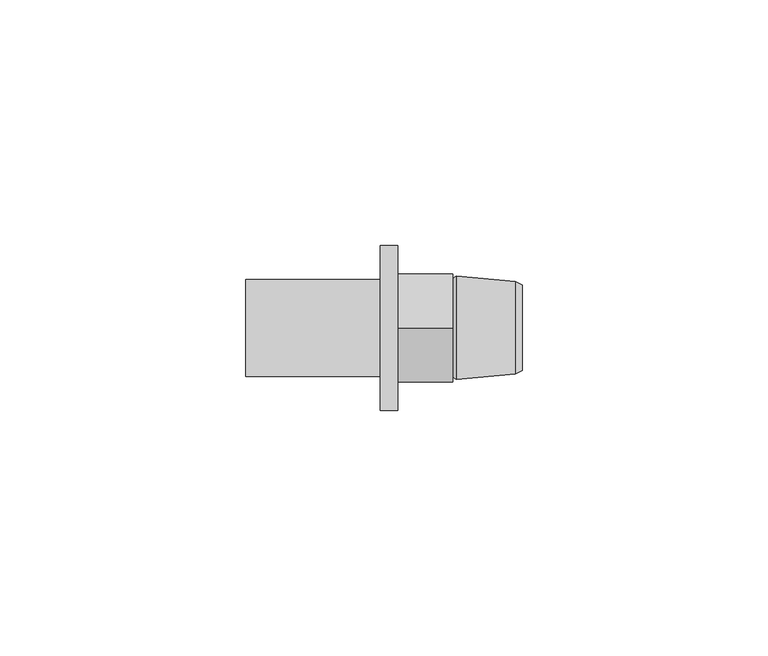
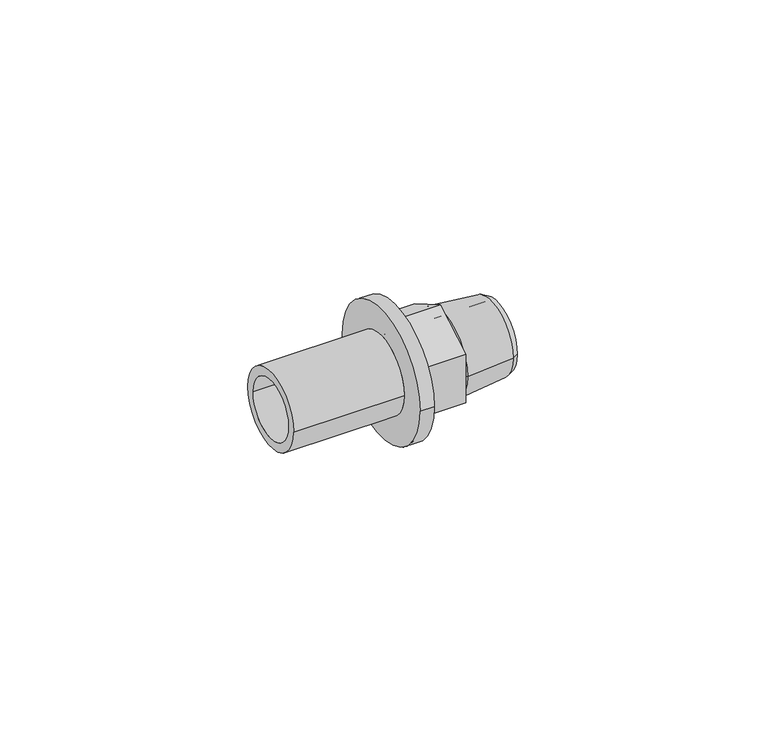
"""IFC4 building model written with IfcOpenShell, lengths in millimetres: pipe fitting geometry, RAUTITAN_Adapter_external_thread LX+G_LX : RTI A external LX+G_LX DE."""

from ifc_helpers import new_model, si_unit, frame, origin, place, context, project, spatial, polyline, circle_curve, outline, extrude, source, transform, mapped, element, save
from ifc_brep_helpers import plane_surface, cylinder_surface, revolved_surface, advanced_brep


def pipe_fitting_fd7cd378(model_context):
    return source(origin(), model_context, "Body", "SolidModel", [
        advanced_brep(
        [(-3.54, 9.875, 0.0), (-3.54, -9.875, 0.0), (-31.02, -9.875, 0.0), (-31.02, 9.875, 0.0), (0.0, 16.8, 0.0), (0.0, -16.8, 0.0), (-3.54, -16.8, 0.0), (-3.54, 16.8, 0.0), (-31.02, 7.6, 0.0), (-31.02, -7.6, 0.0), (0.0, -7.6, 0.0), (0.0, 7.6, 0.0)],
        [
            (0, 1, circle_curve(frame((-3.54, 0.0, 0.0), z_axis=(-1.0, 0.0, 0.0), x_axis=(0.0, -1.0, 0.0)), 9.875)),
            (1, 2),
            (2, 3, circle_curve(frame((-31.02, 0.0, 0.0), z_axis=(1.0, 0.0, 0.0), x_axis=(0.0, -1.0, 0.0)), 9.875)),
            (3, 0),
            (4, 5, circle_curve(frame((0.0, 0.0, 0.0), z_axis=(-1.0, 0.0, 0.0), x_axis=(0.0, -1.0, 0.0)), 16.8)),
            (5, 6),
            (6, 7, circle_curve(frame((-3.54, 0.0, 0.0), z_axis=(1.0, 0.0, 0.0), x_axis=(0.0, -1.0, 0.0)), 16.8)),
            (7, 4),
            (8, 9, circle_curve(frame((-31.02, 0.0, 0.0), z_axis=(-1.0, 0.0, 0.0), x_axis=(0.0, -1.0, 0.0)), 7.6)),
            (9, 10),
            (10, 11, circle_curve(frame((0.0, 0.0, 0.0), z_axis=(1.0, 0.0, 0.0), x_axis=(0.0, -1.0, 0.0)), 7.6)),
            (11, 8),
            (2, 3, circle_curve(frame((-31.02, 0.0, 0.0), z_axis=(-1.0, 0.0, 0.0), x_axis=(0.0, 1.0, 0.0)), 9.875)),
            (8, 9, circle_curve(frame((-31.02, 0.0, 0.0), z_axis=(1.0, 0.0, 0.0), x_axis=(0.0, 1.0, 0.0)), 7.6)),
            (1, 0, circle_curve(frame((-3.54, 0.0, 0.0), z_axis=(-1.0, 0.0, 0.0), x_axis=(0.0, 1.0, 0.0)), 9.875)),
            (6, 7, circle_curve(frame((-3.54, 0.0, 0.0), z_axis=(-1.0, 0.0, 0.0), x_axis=(0.0, 1.0, 0.0)), 16.8)),
            (5, 4, circle_curve(frame((0.0, 0.0, 0.0), z_axis=(-1.0, 0.0, 0.0), x_axis=(0.0, 1.0, 0.0)), 16.8)),
            (10, 11, circle_curve(frame((0.0, 0.0, 0.0), z_axis=(-1.0, 0.0, 0.0), x_axis=(0.0, 1.0, 0.0)), 7.6)),
        ],
        [
            cylinder_surface(frame((0.0, 0.0, 0.0), z_axis=(1.0, 0.0, 0.0), x_axis=(0.0, -1.0, 0.0)), 9.875),
            cylinder_surface(frame((0.0, 0.0, 0.0), z_axis=(1.0, 0.0, 0.0), x_axis=(0.0, -1.0, 0.0)), 16.8),
            revolved_surface(polyline([(0.0, -7.6, 0.0), (-31.02, -7.6, 0.0)]), (0.0, 0.0, 0.0), (1.0, 0.0, 0.0)),
            plane_surface(frame((-31.02, 0.0, 0.0), z_axis=(-1.0, 0.0, 0.0), x_axis=(0.0, 1.0, 0.0))),
            cylinder_surface(frame((0.0, 0.0, 0.0), z_axis=(1.0, 0.0, 0.0), x_axis=(0.0, 1.0, 0.0)), 9.875),
            plane_surface(frame((-3.54, 0.0, 0.0), z_axis=(-1.0, 0.0, 0.0), x_axis=(0.0, 1.0, 0.0))),
            cylinder_surface(frame((0.0, 0.0, 0.0), z_axis=(1.0, 0.0, 0.0), x_axis=(0.0, 1.0, 0.0)), 16.8),
            plane_surface(frame((0.0, 0.0, 0.0), z_axis=(1.0, 0.0, 0.0), x_axis=(0.0, 1.0, 0.0))),
            revolved_surface(polyline([(0.0, 7.6, 0.0), (-31.02, 7.6, 0.0)]), (0.0, 0.0, 0.0), (1.0, 0.0, 0.0)),
        ],
        [
            (0, [[1, 2, 3, 4]]),
            (1, [[5, 6, 7, 8]]),
            (2, [[9, 10, 11, 12]]),
            (3, [[13, -3], [14, -9]]),
            (4, [[15, -4, -13, -2]]),
            (5, [[16, -7], [-15, -1]]),
            (6, [[17, -8, -16, -6]]),
            (7, [[-17, -5], [18, -11]]),
            (8, [[-14, -12, -18, -10]]),
        ],
    ),
        advanced_brep(
        [(12.2732803, 7.5, 0.0), (12.2732803, -7.5, 0.0), (25.38, -7.5, 0.0), (25.38, 7.5, 0.0), (11.17, 6.3967197, 0.0), (11.17, -6.3967197, 0.0), (11.9106902, 10.55, 0.0), (11.9106902, -10.55, 0.0), (11.17, -10.0, 0.0), (11.17, 10.0, 0.0), (23.8800007, 9.42, 0.0), (23.8800007, -9.42, 0.0), (25.38, 8.675, 0.0), (25.38, -8.675, 0.0)],
        [
            (0, 1, circle_curve(frame((12.2732803, 0.0, 0.0), z_axis=(-1.0, 0.0, 0.0), x_axis=(0.0, -1.0, 0.0)), 7.5)),
            (1, 2),
            (2, 3, circle_curve(frame((25.38, 0.0, 0.0), z_axis=(1.0, 0.0, 0.0), x_axis=(0.0, -1.0, 0.0)), 7.5)),
            (3, 0),
            (4, 5, circle_curve(frame((11.17, 0.0, 0.0), z_axis=(-1.0, 0.0, 0.0), x_axis=(0.0, -1.0, 0.0)), 6.3967197)),
            (5, 1),
            (0, 4),
            (6, 7, circle_curve(frame((11.9106902, 0.0, 0.0), z_axis=(-1.0, 0.0, 0.0), x_axis=(0.0, -1.0, 0.0)), 10.55)),
            (7, 8),
            (8, 9, circle_curve(frame((11.17, 0.0, 0.0), z_axis=(1.0, 0.0, 0.0), x_axis=(0.0, -1.0, 0.0)), 10.0)),
            (9, 6),
            (10, 11, circle_curve(frame((23.8800007, 0.0, 0.0), z_axis=(-1.0, 0.0, 0.0), x_axis=(0.0, -1.0, 0.0)), 9.42)),
            (11, 7),
            (6, 10),
            (12, 13, circle_curve(frame((25.38, 0.0, 0.0), z_axis=(-1.0, 0.0, 0.0), x_axis=(0.0, -1.0, 0.0)), 8.675)),
            (13, 11),
            (10, 12),
            (1, 0, circle_curve(frame((12.2732803, 0.0, 0.0), z_axis=(-1.0, 0.0, 0.0), x_axis=(0.0, 1.0, 0.0)), 7.5)),
            (3, 2, circle_curve(frame((25.38, 0.0, 0.0), z_axis=(1.0, 0.0, 0.0), x_axis=(0.0, 1.0, 0.0)), 7.5)),
            (5, 4, circle_curve(frame((11.17, 0.0, 0.0), z_axis=(-1.0, 0.0, 0.0), x_axis=(0.0, 1.0, 0.0)), 6.3967197)),
            (8, 9, circle_curve(frame((11.17, 0.0, 0.0), z_axis=(-1.0, 0.0, 0.0), x_axis=(0.0, 1.0, 0.0)), 10.0)),
            (7, 6, circle_curve(frame((11.9106902, 0.0, 0.0), z_axis=(-1.0, 0.0, 0.0), x_axis=(0.0, 1.0, 0.0)), 10.55)),
            (11, 10, circle_curve(frame((23.8800007, 0.0, 0.0), z_axis=(-1.0, 0.0, 0.0), x_axis=(0.0, 1.0, 0.0)), 9.42)),
            (13, 12, circle_curve(frame((25.38, 0.0, 0.0), z_axis=(-1.0, 0.0, 0.0), x_axis=(0.0, 1.0, 0.0)), 8.675)),
        ],
        [
            revolved_surface(polyline([(25.38, -7.5, 0.0), (12.2732803, -7.5, 0.0)]), (0.0, 0.0, 0.0), (1.0, 0.0, 0.0)),
            revolved_surface(polyline([(12.2732803, -7.5, 0.0), (11.17, -6.3967197, 0.0)]), (0.0, 0.0, 0.0), (1.0, 0.0, 0.0)),
            revolved_surface(polyline([(11.17, -10.0, 0.0), (11.9106902, -10.55, 0.0)]), (0.0, 0.0, 0.0), (1.0, 0.0, 0.0)),
            revolved_surface(polyline([(11.9106902, -10.55, 0.0), (23.8800007, -9.42, 0.0)]), (0.0, 0.0, 0.0), (1.0, 0.0, 0.0)),
            revolved_surface(polyline([(23.8800007, -9.42, 0.0), (25.38, -8.675, 0.0)]), (0.0, 0.0, 0.0), (1.0, 0.0, 0.0)),
            revolved_surface(polyline([(25.38, 7.5, 0.0), (12.2732803, 7.5, 0.0)]), (0.0, 0.0, 0.0), (1.0, 0.0, 0.0)),
            revolved_surface(polyline([(12.2732803, 7.5, 0.0), (11.17, 6.3967197, 0.0)]), (0.0, 0.0, 0.0), (1.0, 0.0, 0.0)),
            plane_surface(frame((11.17, 0.0, 0.0), z_axis=(-1.0, 0.0, 0.0), x_axis=(0.0, 1.0, 0.0))),
            revolved_surface(polyline([(11.17, 10.0, 0.0), (11.9106902, 10.55, 0.0)]), (0.0, 0.0, 0.0), (1.0, 0.0, 0.0)),
            revolved_surface(polyline([(11.9106902, 10.55, 0.0), (23.8800007, 9.42, 0.0)]), (0.0, 0.0, 0.0), (1.0, 0.0, 0.0)),
            revolved_surface(polyline([(23.8800007, 9.42, 0.0), (25.38, 8.675, 0.0)]), (0.0, 0.0, 0.0), (1.0, 0.0, 0.0)),
            plane_surface(frame((25.38, 0.0, 0.0), z_axis=(1.0, 0.0, 0.0), x_axis=(0.0, 1.0, 0.0))),
        ],
        [
            (0, [[1, 2, 3, 4]]),
            (1, [[5, 6, -1, 7]]),
            (2, [[8, 9, 10, 11]]),
            (3, [[12, 13, -8, 14]]),
            (4, [[15, 16, -12, 17]]),
            (5, [[18, -4, 19, -2]]),
            (6, [[20, -7, -18, -6]]),
            (7, [[21, -10], [-20, -5]]),
            (8, [[22, -11, -21, -9]]),
            (9, [[23, -14, -22, -13]]),
            (10, [[24, -17, -23, -16]]),
            (11, [[-24, -15], [-19, -3]]),
        ],
    ),
        extrude(outline(polyline([(-11.0, 6.350853), (0.0, 12.7017059), (11.0, 6.350853), (11.0, -6.350853), (0.0, -12.7017059), (-11.0, -6.350853), (-11.0, 6.350853)])), frame((0.0, 0.0, 0.0), z_axis=(1.0, 0.0, 0.0), x_axis=(0.0, 1.0, 0.0)), (0.0, 0.0, 1.0), 11.17),
    ])


if __name__ == "__main__":
    model = new_model("IFC4")
    model_context = context("Model", 3, world=origin())
    ifc_project = project(units=[si_unit("LENGTHUNIT", "METRE", prefix="MILLI")], contexts=[model_context])
    site = spatial("IfcSite", under=ifc_project)
    building = spatial("IfcBuilding", under=site)
    placement = place(None, origin())
    pipe_fitting_shape = pipe_fitting_fd7cd378(model_context)
    element("IfcPipeFitting", 1, ObjectType="RAUTITAN_Adapter_external_thread LX+G_LX : RTI A external LX+G_LX DE", at=placement, inside=building, context=model_context, shape_type="MappedRepresentation", body=[
        mapped(pipe_fitting_shape, transform((0.0, 0.0, 0.0), x_axis=(1.0, 0.0, 0.0), y_axis=(0.0, 1.0, 0.0), z_axis=(0.0, 0.0, 1.0))),
    ])
    save(model, "model.ifc")
